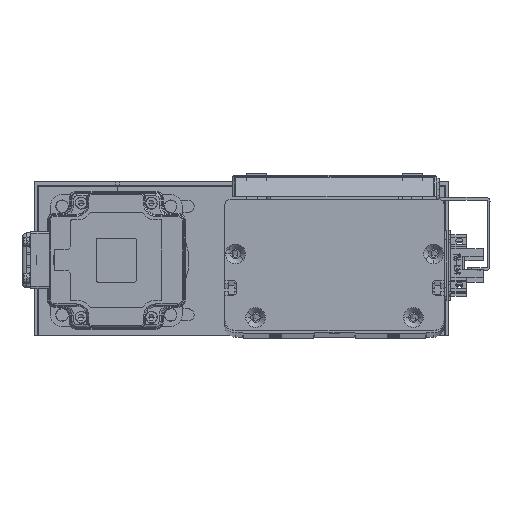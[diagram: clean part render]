
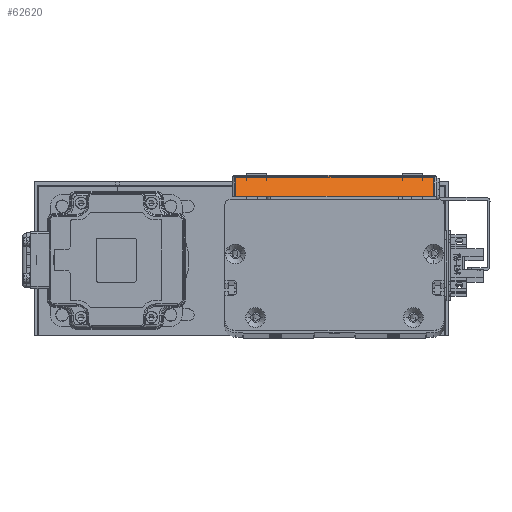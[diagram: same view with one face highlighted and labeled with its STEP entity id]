
A CAD part, top view. The second image highlights one B-rep face of the part: STEP entity #62620.
In plain terms, the highlighted planar face has unit normal (0, 0.707, 0.707) as drawn and (-0.707, 0, -0.707) by its records, which use the part's own axes.
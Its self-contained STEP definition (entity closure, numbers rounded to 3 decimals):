
#1154 = LINE ( 'NONE', #24029, #23504 ) ;
#1831 = DIRECTION ( 'NONE',  ( -0.707, 0., -0.707 ) ) ;
#2532 = PLANE ( 'NONE',  #58656 ) ;
#2552 = CARTESIAN_POINT ( 'NONE',  ( -57.298, 1.7, -5.102 ) ) ;
#3362 = CARTESIAN_POINT ( 'NONE',  ( -68., 1.7, 5.6 ) ) ;
#3654 = ORIENTED_EDGE ( 'NONE', *, *, #45053, .T. ) ;
#5258 = ORIENTED_EDGE ( 'NONE', *, *, #40166, .T. ) ;
#7931 = VECTOR ( 'NONE', #40029, 1000. ) ;
#12735 = DIRECTION ( 'NONE',  ( 0., -1., 0. ) ) ;
#14781 = CARTESIAN_POINT ( 'NONE',  ( -66.5, 91.7, 4.1 ) ) ;
#17607 = VERTEX_POINT ( 'NONE', #29134 ) ;
#19347 = CARTESIAN_POINT ( 'NONE',  ( -66.5, 93.4, 4.1 ) ) ;
#21062 = DIRECTION ( 'NONE',  ( -0.707, 0., 0.707 ) ) ;
#23504 = VECTOR ( 'NONE', #12735, 1000. ) ;
#23911 = DIRECTION ( 'NONE',  ( -0.707, 0., 0.707 ) ) ;
#24029 = CARTESIAN_POINT ( 'NONE',  ( -57.298, 93.4, -5.102 ) ) ;
#24958 = DIRECTION ( 'NONE',  ( 0., 1., 0. ) ) ;
#29038 = CARTESIAN_POINT ( 'NONE',  ( -68., 93.4, 5.6 ) ) ;
#29134 = CARTESIAN_POINT ( 'NONE',  ( -66.5, 1.7, 4.1 ) ) ;
#34301 = VECTOR ( 'NONE', #24958, 1000. ) ;
#38413 = CARTESIAN_POINT ( 'NONE',  ( -57.298, 91.7, -5.102 ) ) ;
#40029 = DIRECTION ( 'NONE',  ( 0.707, 0., -0.707 ) ) ;
#40166 = EDGE_CURVE ( 'NONE', #17607, #64732, #63535, .T. ) ;
#44116 = LINE ( 'NONE', #56847, #7931 ) ;
#45053 = EDGE_CURVE ( 'NONE', #64732, #58380, #44116, .T. ) ;
#47682 = EDGE_LOOP ( 'NONE', ( #53751, #5258, #3654, #68678 ) ) ;
#48102 = FACE_OUTER_BOUND ( 'NONE', #47682, .T. ) ;
#48525 = EDGE_CURVE ( 'NONE', #51010, #17607, #55516, .T. ) ;
#51010 = VERTEX_POINT ( 'NONE', #2552 ) ;
#53751 = ORIENTED_EDGE ( 'NONE', *, *, #48525, .T. ) ;
#55516 = LINE ( 'NONE', #3362, #58947 ) ;
#56847 = CARTESIAN_POINT ( 'NONE',  ( -68., 91.7, 5.6 ) ) ;
#58380 = VERTEX_POINT ( 'NONE', #38413 ) ;
#58656 = AXIS2_PLACEMENT_3D ( 'NONE', #29038, #1831, #23911 ) ;
#58947 = VECTOR ( 'NONE', #21062, 1000. ) ;
#62620 = ADVANCED_FACE ( 'NONE', ( #48102 ), #2532, .T. ) ;
#63535 = LINE ( 'NONE', #19347, #34301 ) ;
#64732 = VERTEX_POINT ( 'NONE', #14781 ) ;
#65669 = EDGE_CURVE ( 'NONE', #58380, #51010, #1154, .T. ) ;
#68678 = ORIENTED_EDGE ( 'NONE', *, *, #65669, .T. ) ;
